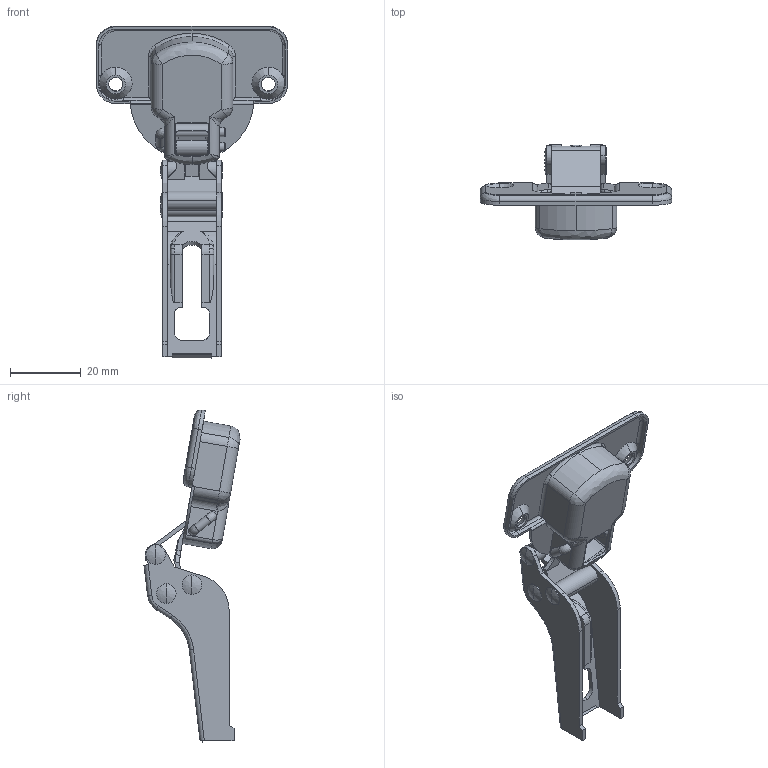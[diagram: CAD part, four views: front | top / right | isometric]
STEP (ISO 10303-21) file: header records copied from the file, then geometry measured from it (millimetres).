
FILE_DESCRIPTION (( 'STEP AP203' ), '1' );
FILE_NAME ('100_46_9_100.STEP', '2013-05-30T05:17:00', ( '' ), ( '' ), 'SwSTEP 2.0', 'SolidWorks 2012', '' );
FILE_SCHEMA (( 'CONFIG_CONTROL_DESIGN' ));
Length unit declared in the file: millimetre
Products named in the file (5): 100SUS_arm_B; 100SUS_arm_A; 100SUS_body_9; 100_46_9_100; 100SUS_socket
Assembly tree (4 placements, depth 2):
  100_46_9_100
    100SUS_body_9
    100SUS_arm_A
    100SUS_arm_B
    100SUS_socket
Bounding box: 54 x 27.07 x 93.63 mm (x, y, z)
Volume: 6209 mm3; surface area: 12893.1 mm2
Topology: 4 solids, 4 shells, 732 faces, 1927 edges, 1203 vertices
Faces by surface type: plane 316, cylinder 188, bspline 182, cone 34, torus 12
Entity records: 32206 total; most frequent: CARTESIAN_POINT 14854, ORIENTED_EDGE 3810, DIRECTION 3062, EDGE_CURVE 1905, VERTEX_POINT 1203, VECTOR 1098, LINE 1098, AXIS2_PLACEMENT_3D 982
